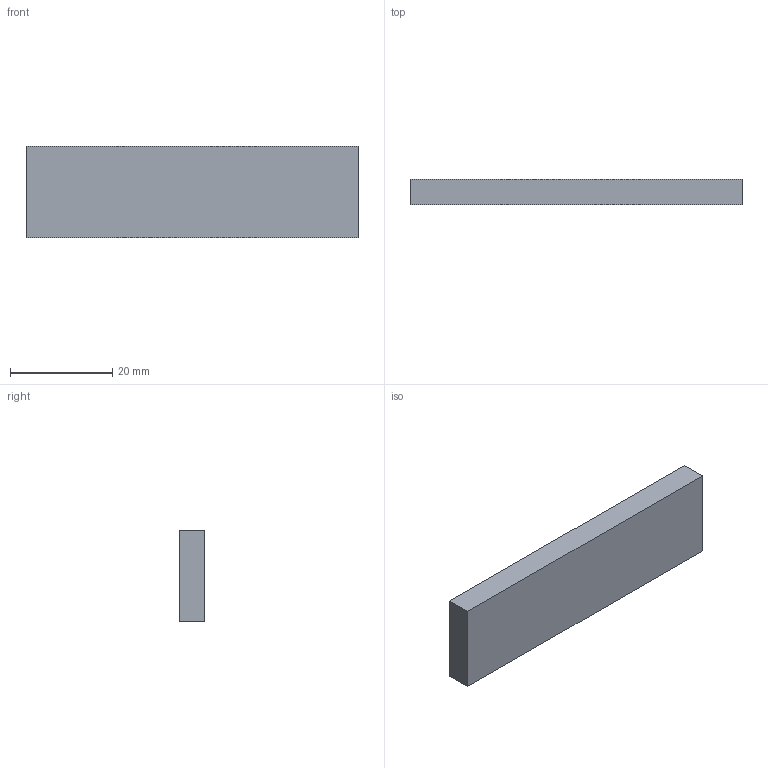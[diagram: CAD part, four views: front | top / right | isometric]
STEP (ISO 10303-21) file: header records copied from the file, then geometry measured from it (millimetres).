
FILE_DESCRIPTION(('FreeCAD Model'),'2;1');
FILE_NAME('Open CASCADE Shape Model','2026-10-20T16:17:42',('FreeCAD'),( 'FreeCAD'),'Open CASCADE STEP processor 7.8','FreeCAD','Unknown');
FILE_SCHEMA(('AUTOMOTIVE_DESIGN { 1 0 10303 214 1 1 1 1 }'));
Length unit declared in the file: millimetre
Products named in the file (1): Open CASCADE STEP translator 7.8 7
Bounding box: 65 x 5 x 18 mm (x, y, z)
Volume: 5850 mm3; surface area: 3170 mm2
Topology: 1 solids, 1 shells, 6 faces, 12 edges, 8 vertices
Faces by surface type: plane 6
Entity records: 166 total; most frequent: CARTESIAN_POINT 27, DIRECTION 26, ORIENTED_EDGE 24, EDGE_CURVE 12, LINE 12, VECTOR 12, VERTEX_POINT 8, AXIS2_PLACEMENT_3D 7
